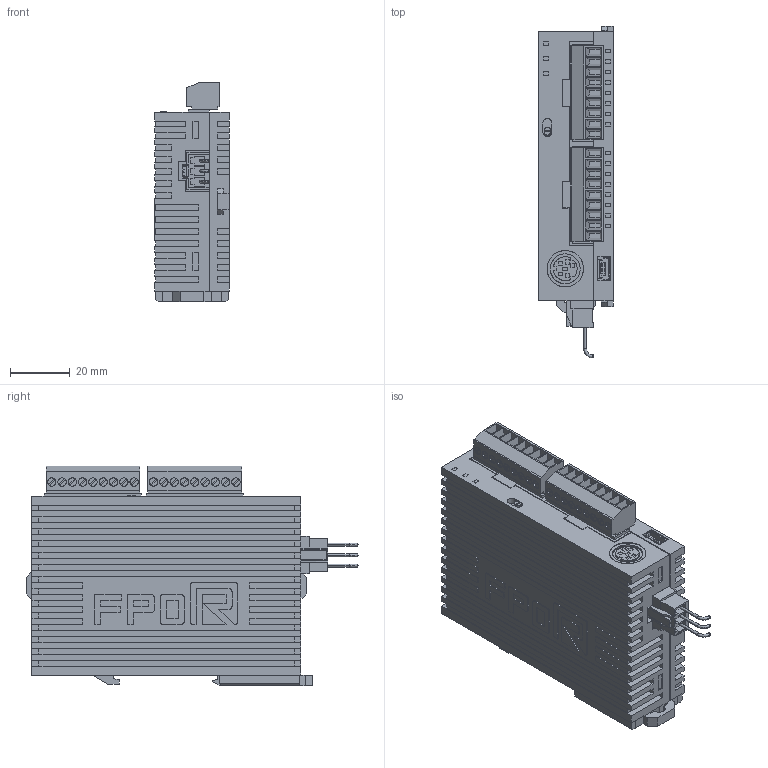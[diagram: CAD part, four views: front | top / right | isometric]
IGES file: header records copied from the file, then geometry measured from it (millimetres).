
Start section: SolidWorks IGES file using analytic representation for surfaces
Global section: file name: C:\catalog\FP0R_catalog\afp0rc14rs\afp0rc14rs.IGS; native system: SolidWorks 2010; preprocessor: SolidWorks 2010; author: ek1676; date: 130628.125524; units: millimetre
Bounding box: 25 x 111.2 x 73.45 mm (x, y, z)
Surface area: 27966.2 mm2 (no closed solid volume)
Topology: 0 solids, 0 shells, 1090 faces, 7728 edges, 7728 vertices
Faces by surface type: bspline 993, revolution 97
